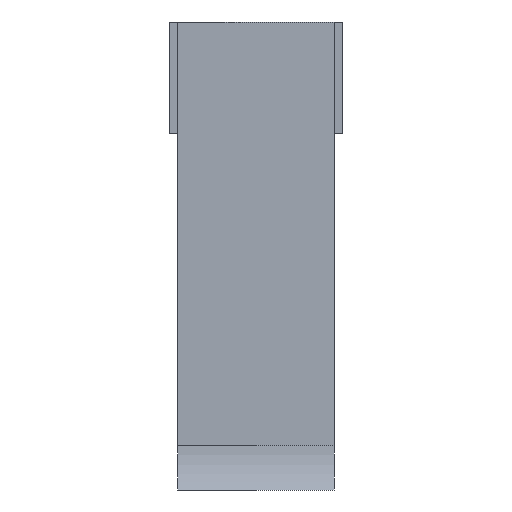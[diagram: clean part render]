
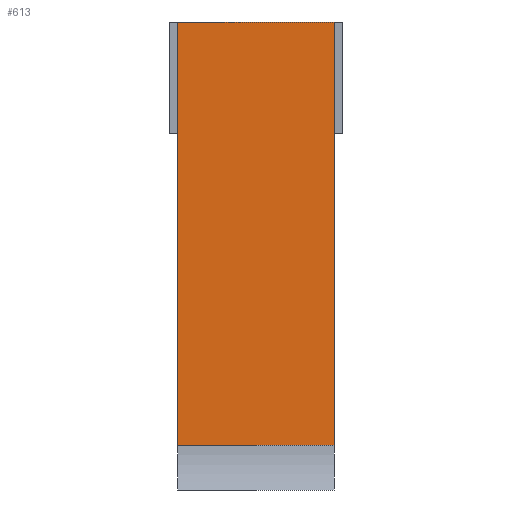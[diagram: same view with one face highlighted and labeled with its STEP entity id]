
A CAD part, front view. The second image highlights one B-rep face of the part: STEP entity #613.
In plain terms, the highlighted planar face has unit normal (0, -1, 0).
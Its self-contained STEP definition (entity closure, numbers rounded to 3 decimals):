
#43 = VECTOR ( 'NONE', #326, 1000. ) ;
#45 = LINE ( 'NONE', #158, #369 ) ;
#53 = DIRECTION ( 'NONE',  ( 0., 0., 1. ) ) ;
#83 = DIRECTION ( 'NONE',  ( 0., 1., 0. ) ) ;
#90 = CARTESIAN_POINT ( 'NONE',  ( 37., 48., 0. ) ) ;
#91 = ORIENTED_EDGE ( 'NONE', *, *, #220, .F. ) ;
#102 = LINE ( 'NONE', #410, #407 ) ;
#107 = CARTESIAN_POINT ( 'NONE',  ( 3., 48., -70. ) ) ;
#113 = DIRECTION ( 'NONE',  ( 0., 0., -1. ) ) ;
#146 = EDGE_LOOP ( 'NONE', ( #584, #224, #658, #432, #91, #267 ) ) ;
#153 = VERTEX_POINT ( 'NONE', #630 ) ;
#158 = CARTESIAN_POINT ( 'NONE',  ( 2., 48., 25. ) ) ;
#177 = VERTEX_POINT ( 'NONE', #633 ) ;
#181 = FACE_OUTER_BOUND ( 'NONE', #146, .T. ) ;
#187 = LINE ( 'NONE', #646, #295 ) ;
#189 = PLANE ( 'NONE',  #416 ) ;
#220 = EDGE_CURVE ( 'NONE', #153, #330, #478, .T. ) ;
#224 = ORIENTED_EDGE ( 'NONE', *, *, #375, .F. ) ;
#233 = EDGE_CURVE ( 'NONE', #609, #153, #487, .T. ) ;
#267 = ORIENTED_EDGE ( 'NONE', *, *, #233, .F. ) ;
#285 = CARTESIAN_POINT ( 'NONE',  ( 37., 48., 25. ) ) ;
#287 = VERTEX_POINT ( 'NONE', #346 ) ;
#295 = VECTOR ( 'NONE', #300, 1000. ) ;
#300 = DIRECTION ( 'NONE',  ( 0., 0., 1. ) ) ;
#326 = DIRECTION ( 'NONE',  ( 1., 0., 0. ) ) ;
#330 = VERTEX_POINT ( 'NONE', #90 ) ;
#346 = CARTESIAN_POINT ( 'NONE',  ( 37., 48., -70. ) ) ;
#358 = LINE ( 'NONE', #107, #399 ) ;
#369 = VECTOR ( 'NONE', #460, 1000. ) ;
#375 = EDGE_CURVE ( 'NONE', #629, #177, #187, .T. ) ;
#385 = CARTESIAN_POINT ( 'NONE',  ( 2., 48., 25. ) ) ;
#394 = DIRECTION ( 'NONE',  ( 0., 0., 1. ) ) ;
#399 = VECTOR ( 'NONE', #423, 1000. ) ;
#406 = EDGE_CURVE ( 'NONE', #629, #287, #358, .T. ) ;
#407 = VECTOR ( 'NONE', #53, 1000. ) ;
#410 = CARTESIAN_POINT ( 'NONE',  ( 37., 48., -70. ) ) ;
#416 = AXIS2_PLACEMENT_3D ( 'NONE', #530, #83, #394 ) ;
#423 = DIRECTION ( 'NONE',  ( 1., 0., 0. ) ) ;
#432 = ORIENTED_EDGE ( 'NONE', *, *, #509, .T. ) ;
#460 = DIRECTION ( 'NONE',  ( 0., 0., -1. ) ) ;
#478 = LINE ( 'NONE', #285, #617 ) ;
#487 = LINE ( 'NONE', #627, #43 ) ;
#509 = EDGE_CURVE ( 'NONE', #287, #330, #102, .T. ) ;
#517 = EDGE_CURVE ( 'NONE', #609, #177, #45, .T. ) ;
#530 = CARTESIAN_POINT ( 'NONE',  ( 2., 48., 25. ) ) ;
#540 = CARTESIAN_POINT ( 'NONE',  ( 2., 48., -70. ) ) ;
#584 = ORIENTED_EDGE ( 'NONE', *, *, #517, .T. ) ;
#609 = VERTEX_POINT ( 'NONE', #385 ) ;
#613 = ADVANCED_FACE ( 'NONE', ( #181 ), #189, .F. ) ;
#617 = VECTOR ( 'NONE', #113, 1000. ) ;
#627 = CARTESIAN_POINT ( 'NONE',  ( 2., 48., 25. ) ) ;
#629 = VERTEX_POINT ( 'NONE', #540 ) ;
#630 = CARTESIAN_POINT ( 'NONE',  ( 37., 48., 25. ) ) ;
#633 = CARTESIAN_POINT ( 'NONE',  ( 2., 48., 0. ) ) ;
#646 = CARTESIAN_POINT ( 'NONE',  ( 2., 48., -70. ) ) ;
#658 = ORIENTED_EDGE ( 'NONE', *, *, #406, .T. ) ;
